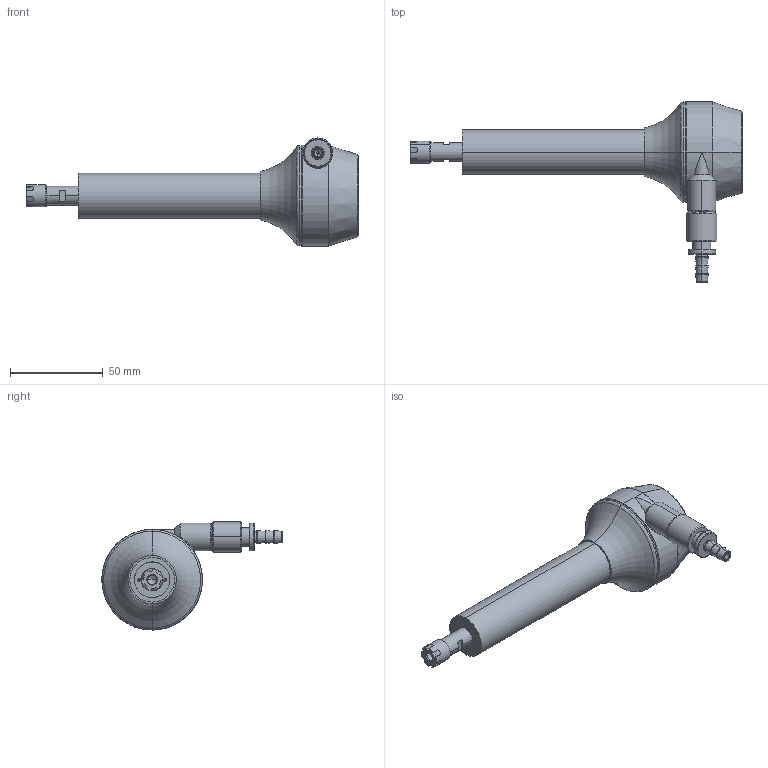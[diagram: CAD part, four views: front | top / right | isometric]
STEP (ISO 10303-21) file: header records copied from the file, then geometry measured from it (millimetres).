
FILE_DESCRIPTION (( 'STEP AP203' ), '1' );
FILE_NAME ('BE11.STEP', '2009-07-06T14:24:16', ( 'HP' ), ( '' ), 'SwSTEP 2.0', 'SolidWorks 2008', '' );
FILE_SCHEMA (( 'CONFIG_CONTROL_DESIGN' ));
Length unit declared in the file: millimetre
Products named in the file (10): H嶚pl廞; Filter; Plastlock; BE11; Reglagehylsa; Reglagekärna; Hus; Lock; ER8 mutter; Spindel (dummy)
Assembly tree (9 placements, depth 2):
  BE11
    H嶚pl廞
    Reglagehylsa
    Filter
    Plastlock
    Hus
    Lock
    Reglagekärna
    Spindel (dummy)
    ER8 mutter
Bounding box: 178.6 x 97.1 x 58.2 mm (x, y, z)
Volume: 82938.6 mm3; surface area: 50584.3 mm2
Topology: 9 solids, 9 shells, 380 faces, 957 edges, 606 vertices
Faces by surface type: cylinder 210, plane 58, bspline 56, cone 50, torus 6
Entity records: 23816 total; most frequent: CARTESIAN_POINT 13437, DIRECTION 1999, ORIENTED_EDGE 1906, EDGE_CURVE 953, AXIS2_PLACEMENT_3D 846, VERTEX_POINT 606, EDGE_LOOP 525, CIRCLE 510
